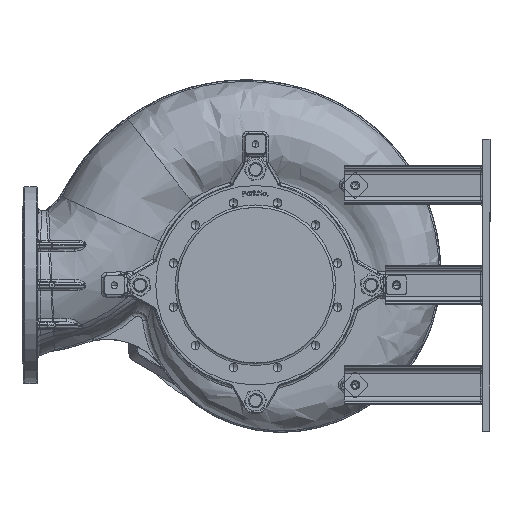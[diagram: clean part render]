
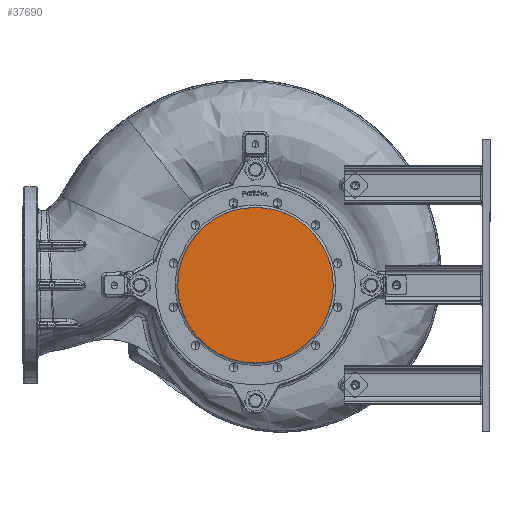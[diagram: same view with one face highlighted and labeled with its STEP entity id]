
A CAD part, left-side view. The second image highlights one B-rep face of the part: STEP entity #37690.
In plain terms, the highlighted planar face has unit normal (-1, 0, 0).
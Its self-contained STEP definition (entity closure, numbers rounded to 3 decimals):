
#9343 = DIRECTION ( 'NONE',  ( 0., 1., 0. ) ) ;
#12720 = CARTESIAN_POINT ( 'NONE',  ( -528.5, 0., 0. ) ) ;
#20275 = AXIS2_PLACEMENT_3D ( 'NONE', #135628, #41844, #151283 ) ;
#28747 = DIRECTION ( 'NONE',  ( 0., 1., 0. ) ) ;
#34368 = AXIS2_PLACEMENT_3D ( 'NONE', #12720, #122684, #28747 ) ;
#37690 = ADVANCED_FACE ( 'NONE', ( #169442 ), #134929, .T. ) ;
#41844 = DIRECTION ( 'NONE',  ( -1., 0., 0. ) ) ;
#68243 = EDGE_LOOP ( 'NONE', ( #145637, #153939 ) ) ;
#90060 = EDGE_CURVE ( 'NONE', #99181, #112211, #131898, .T. ) ;
#99181 = VERTEX_POINT ( 'NONE', #173226 ) ;
#103733 = DIRECTION ( 'NONE',  ( 1., 0., 0. ) ) ;
#112211 = VERTEX_POINT ( 'NONE', #187445 ) ;
#122684 = DIRECTION ( 'NONE',  ( 1., 0., 0. ) ) ;
#124266 = EDGE_CURVE ( 'NONE', #112211, #99181, #201917, .T. ) ;
#131898 = CIRCLE ( 'NONE', #34368, 160. ) ;
#134929 = PLANE ( 'NONE',  #20275 ) ;
#135628 = CARTESIAN_POINT ( 'NONE',  ( -528.5, 0., 160. ) ) ;
#145637 = ORIENTED_EDGE ( 'NONE', *, *, #90060, .F. ) ;
#151283 = DIRECTION ( 'NONE',  ( 0., -1., 0. ) ) ;
#153939 = ORIENTED_EDGE ( 'NONE', *, *, #124266, .F. ) ;
#154755 = AXIS2_PLACEMENT_3D ( 'NONE', #197462, #103733, #9343 ) ;
#169442 = FACE_OUTER_BOUND ( 'NONE', #68243, .T. ) ;
#173226 = CARTESIAN_POINT ( 'NONE',  ( -528.5, 160., 0. ) ) ;
#187445 = CARTESIAN_POINT ( 'NONE',  ( -528.5, -160., 0. ) ) ;
#197462 = CARTESIAN_POINT ( 'NONE',  ( -528.5, 0., 0. ) ) ;
#201917 = CIRCLE ( 'NONE', #154755, 160. ) ;
